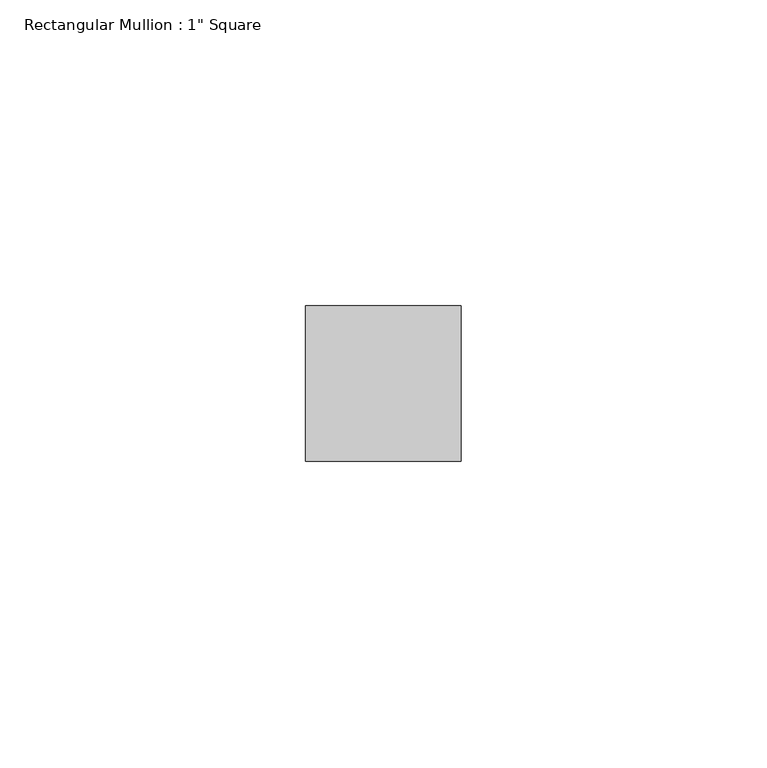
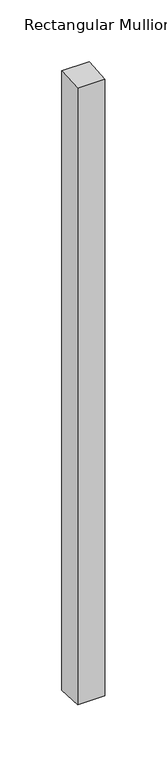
"""IFC4 building model written with IfcOpenShell, lengths in millimetres: member geometry."""

from ifc_helpers import new_model, si_unit, origin, place, context, project, spatial, faceted_brep, source, transform, mapped, element, save


def member_20c667eb(model_context):
    return source(origin(), model_context, "Body", "Brep", [
        faceted_brep([(-25.4, 12.7, 0.7590437), (0.0, 12.7, 0.7587411), (0.0, 12.7, -610.3587411), (-25.4, 12.7, -610.3590437), (-25.4, -12.7, -0.7584385), (-25.4, -12.7, -608.8415615), (0.0, -12.7, -0.7587411), (0.0, -12.7, -608.8412589)], [[[0, 1, 2, 3]], [[4, 0, 3, 5]], [[6, 4, 5, 7]], [[1, 6, 7, 2]], [[1, 0, 4, 6]], [[2, 7, 5, 3]]]),
    ])


if __name__ == "__main__":
    model = new_model("IFC4")
    model_context = context("Model", 3, world=origin())
    ifc_project = project(units=[si_unit("LENGTHUNIT", "METRE", prefix="MILLI")], contexts=[model_context])
    site = spatial("IfcSite", under=ifc_project)
    building = spatial("IfcBuilding", under=site)
    placement = place(None, origin())
    member_shape = member_20c667eb(model_context)
    element("IfcMember", 1, ObjectType="Rectangular Mullion : 1\" Square", at=placement, inside=building, context=model_context, shape_type="MappedRepresentation", body=[
        mapped(member_shape, transform((0.0, 0.0, 0.0), x_axis=(1.0, 0.0, 0.0), y_axis=(0.0, 1.0, 0.0), z_axis=(0.0, 0.0, 1.0))),
    ])
    save(model, "model.ifc")
